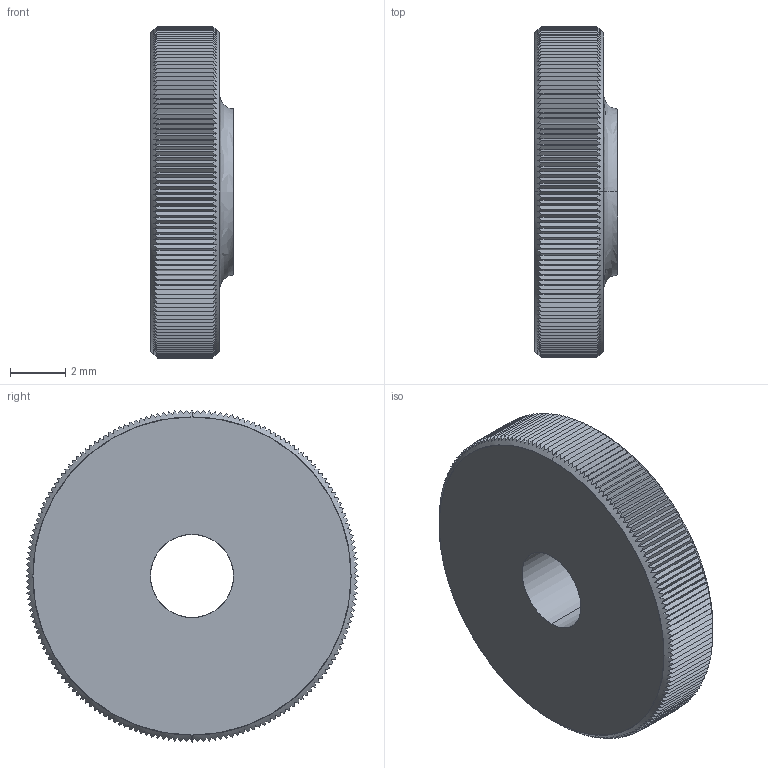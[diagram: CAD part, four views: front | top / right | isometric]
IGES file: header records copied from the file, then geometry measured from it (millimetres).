
Start section: SolidWorks IGES file using analytic representation for surfaces
Global section: file name: C:\Documents and Settings\IANO\Desktop\Temp File\Process pending\EXISTING\37120_v2\37120_v2_20170629_IGES\37120.W0003.igs; native system: SolidWorks 2009; preprocessor: SolidWorks 2009; author: IANO; date: 170627.121956; units: millimetre
Bounding box: 3 x 12 x 12 mm (x, y, z)
Surface area: 370.5 mm2 (no closed solid volume)
Topology: 0 solids, 0 shells, 371 faces, 2380 edges, 2380 vertices
Faces by surface type: bspline 365, revolution 6
